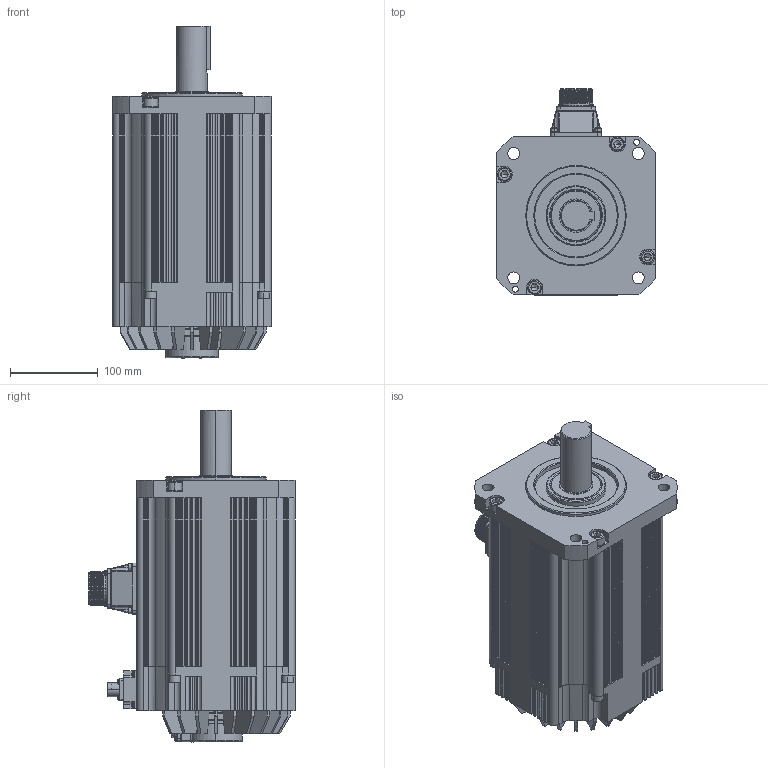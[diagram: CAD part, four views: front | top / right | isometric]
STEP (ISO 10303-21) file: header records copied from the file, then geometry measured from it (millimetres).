
FILE_DESCRIPTION (( 'STEP AP203' ), '1' );
FILE_NAME ('TSM3614N7375E720.STEP', '2018-07-04T09:13:10', ( '' ), ( '' ), 'SwSTEP 2.0', 'SolidWorks 2017', '' );
FILE_SCHEMA (( 'CONFIG_CONTROL_DESIGN' ));
Products named in the file (1): TSM3614N7375E720
Bounding box: 180 x 234.5 x 377.5 mm (x, y, z)
Volume: 7515732.1 mm3; surface area: 407801.9 mm2
Topology: 1 solids, 20 shells, 2819 faces, 7499 edges, 4818 vertices
Faces by surface type: plane 1514, cylinder 748, bspline 404, cone 139, torus 14
Entity records: 108945 total; most frequent: CARTESIAN_POINT 42379, ORIENTED_EDGE 14882, DIRECTION 12217, EDGE_CURVE 7441, VERTEX_POINT 4818, LINE 4509, VECTOR 4509, AXIS2_PLACEMENT_3D 3854
